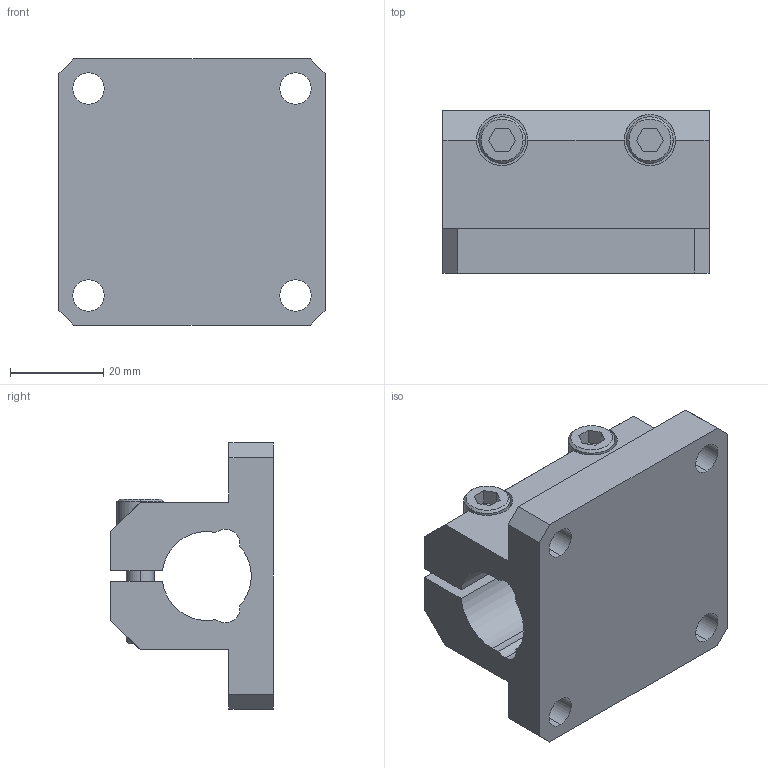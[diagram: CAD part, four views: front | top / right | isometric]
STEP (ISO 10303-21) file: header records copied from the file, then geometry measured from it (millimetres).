
FILE_DESCRIPTION (( 'STEP AP214' ), '1' );
FILE_NAME ('RTI-FCH-75-L.STEP', '2013-10-22T13:48:45', ( 'user' ), ( '' ), 'SwSTEP 2.0', 'SolidWorks 2009', '' );
FILE_SCHEMA (( 'AUTOMOTIVE_DESIGN' ));
Length unit declared in the file: inch
Products named in the file (4): M6 WASHER; M6 S.H.C.S._M6x25mm; RTI-FCH-75-L
Assembly tree (5 placements, depth 2):
  RTI-FCH-75-L
    M6 S.H.C.S._M6x25mm  x2
    M6 WASHER  x2
    RTI-FCH-75-L
Bounding box: 57.15 x 34.92 x 57.15 mm (x, y, z)
Volume: 54834.3 mm3; surface area: 20011 mm2
Topology: 5 solids, 5 shells, 400 faces, 1028 edges, 680 vertices
Faces by surface type: plane 262, bspline 83, cylinder 47, cone 8
Entity records: 20262 total; most frequent: CARTESIAN_POINT 7545, ORIENTED_EDGE 1956, DIRECTION 1488, EDGE_CURVE 978, LINE 730, VECTOR 730, VERTEX_POINT 648, EDGE_LOOP 434
